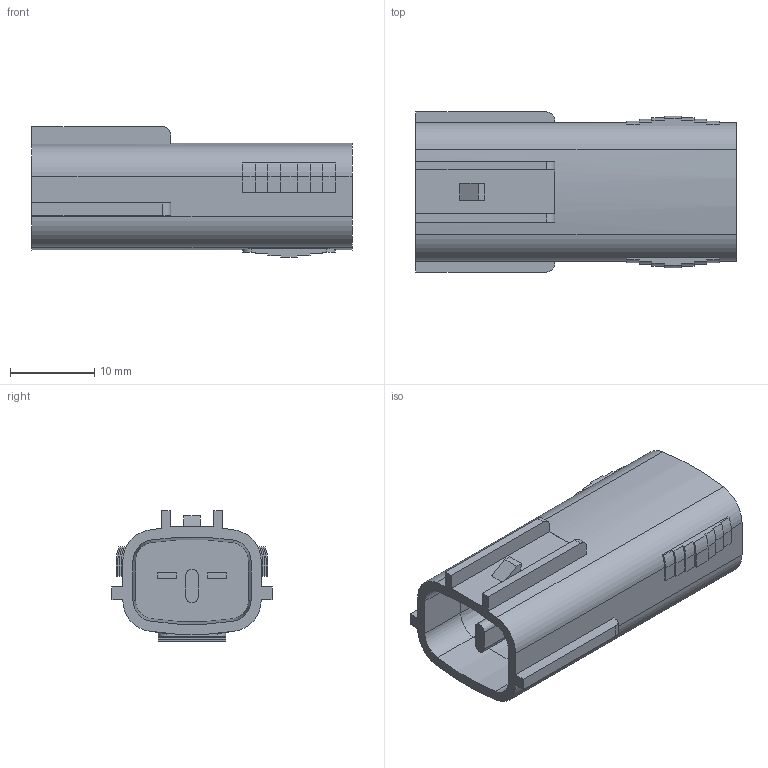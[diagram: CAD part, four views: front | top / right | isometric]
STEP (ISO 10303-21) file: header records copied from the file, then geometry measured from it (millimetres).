
FILE_DESCRIPTION(('CATIA V5 STEP Exchange','CAx-IF Rec.Pracs.--- Model Styling and Organization---1.2---2011-12-15'),'2;1');
FILE_NAME('N:\C-DAM_MyDesk\ENV\900093\6195-0006.stp','2015-06-23T07:23:50+00:00',('none'),('none'),'CATIA Version 5-6 Release 2012 SP4 HF74','CATIA V5 STEP AP214','none');
FILE_SCHEMA(('AUTOMOTIVE_DESIGN { 1 0 10303 214 1 1 1 1 }'));
Length unit declared in the file: millimetre
Products named in the file (1): 6195-0006
Bounding box: 38 x 19 x 15.5 mm (x, y, z)
Volume: 5657.2 mm3; surface area: 3357.4 mm2
Topology: 1 solids, 1 shells, 143 faces, 394 edges, 261 vertices
Faces by surface type: plane 97, cylinder 38, cone 6, bspline 2
Entity records: 4361 total; most frequent: CARTESIAN_POINT 857, ORIENTED_EDGE 788, DIRECTION 596, EDGE_CURVE 394, VECTOR 295, LINE 295, VERTEX_POINT 261, AXIS2_PLACEMENT_3D 197
